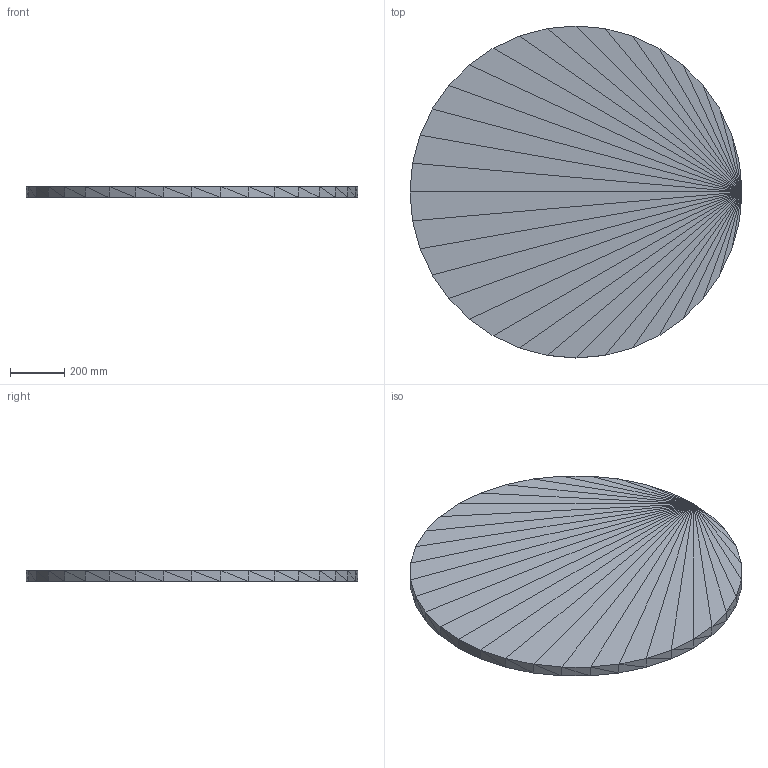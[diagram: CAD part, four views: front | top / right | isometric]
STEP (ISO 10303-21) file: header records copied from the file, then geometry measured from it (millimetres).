
FILE_DESCRIPTION(('ISINAC STEP AP214'),'2;1');
FILE_NAME('ISINAC_CIR.1220_40mm_ADHESIVO','2026-05-03T10:49:20',('ISINAC'),('www.isinac.com'),'ISINAC BIM Generator 1.0','','');
FILE_SCHEMA(('AUTOMOTIVE_DESIGN'));
Length unit declared in the file: millimetre
Products named in the file (1): ISINAC_CIR.1220_40mm_ADHESIVO
Bounding box: 1220 x 1220 x 40 mm (x, y, z)
Surface area: 2479236.6 mm2 (no closed solid volume)
Topology: 0 solids, 140 shells, 140 faces, 420 edges, 420 vertices
Faces by surface type: plane 140
Entity records: 1553 total; most frequent: CARTESIAN_POINT 560, DIRECTION 280, POLY_LOOP 140, FACE_OUTER_BOUND 140, AXIS2_PLACEMENT_3D 140, PLANE 140, FACE_SURFACE 140, CLOSED_SHELL 1
